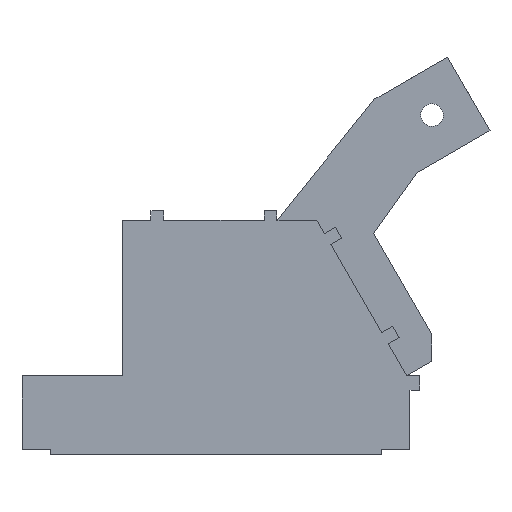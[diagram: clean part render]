
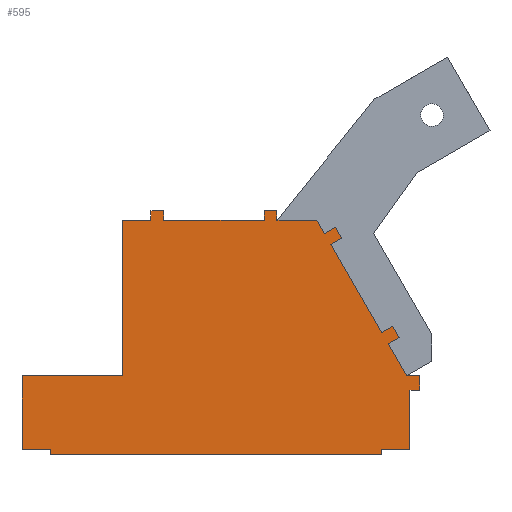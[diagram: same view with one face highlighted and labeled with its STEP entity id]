
A CAD part, left-side view. The second image highlights one B-rep face of the part: STEP entity #595.
In plain terms, the highlighted planar face has unit normal (-1, 0, 0).
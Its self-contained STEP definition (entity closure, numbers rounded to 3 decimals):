
#70=CARTESIAN_POINT('Vertex',(-1304.,1348.,-1200.)) ;
#75=CARTESIAN_POINT('Line Origine',(-1304.,1348.,-1190.)) ;
#79=CARTESIAN_POINT('Vertex',(-1304.,1348.,-1180.)) ;
#345=CARTESIAN_POINT('Line Origine',(-1304.,1398.,-1180.)) ;
#349=CARTESIAN_POINT('Vertex',(-1304.,1448.,-1180.)) ;
#364=CARTESIAN_POINT('Axis2P3D Location',(-1304.,0.,0.)) ;
#369=CARTESIAN_POINT('Line Origine',(-1304.,763.,-1200.)) ;
#373=CARTESIAN_POINT('Vertex',(-1304.,178.,-1200.)) ;
#376=CARTESIAN_POINT('Line Origine',(-1304.,178.,-1190.)) ;
#380=CARTESIAN_POINT('Vertex',(-1304.,178.,-1180.)) ;
#383=CARTESIAN_POINT('Line Origine',(-1304.,128.,-1180.)) ;
#387=CARTESIAN_POINT('Vertex',(-1304.,78.,-1180.)) ;
#390=CARTESIAN_POINT('Line Origine',(-1304.,78.,-1075.5)) ;
#394=CARTESIAN_POINT('Vertex',(-1304.,78.,-971.)) ;
#397=CARTESIAN_POINT('Line Origine',(-1304.,60.5,-971.)) ;
#401=CARTESIAN_POINT('Vertex',(-1304.,43.,-971.)) ;
#404=CARTESIAN_POINT('Line Origine',(-1304.,43.,-946.)) ;
#408=CARTESIAN_POINT('Vertex',(-1304.,43.,-921.)) ;
#411=CARTESIAN_POINT('Line Origine',(-1304.,66.245,-921.)) ;
#415=CARTESIAN_POINT('Vertex',(-1304.,89.489,-921.)) ;
#418=CARTESIAN_POINT('Line Origine',(-1304.,122.33,-864.117)) ;
#422=CARTESIAN_POINT('Vertex',(-1304.,155.172,-807.235)) ;
#425=CARTESIAN_POINT('Line Origine',(-1304.,135.686,-795.985)) ;
#429=CARTESIAN_POINT('Vertex',(-1304.,116.201,-784.735)) ;
#432=CARTESIAN_POINT('Line Origine',(-1304.,127.451,-765.249)) ;
#436=CARTESIAN_POINT('Vertex',(-1304.,138.701,-745.764)) ;
#439=CARTESIAN_POINT('Line Origine',(-1304.,158.186,-757.014)) ;
#443=CARTESIAN_POINT('Vertex',(-1304.,177.672,-768.264)) ;
#446=CARTESIAN_POINT('Line Origine',(-1304.,267.422,-612.812)) ;
#450=CARTESIAN_POINT('Vertex',(-1304.,357.172,-457.361)) ;
#453=CARTESIAN_POINT('Line Origine',(-1304.,337.686,-446.111)) ;
#457=CARTESIAN_POINT('Vertex',(-1304.,318.201,-434.861)) ;
#460=CARTESIAN_POINT('Line Origine',(-1304.,329.451,-415.375)) ;
#464=CARTESIAN_POINT('Vertex',(-1304.,340.701,-395.889)) ;
#467=CARTESIAN_POINT('Line Origine',(-1304.,360.186,-407.139)) ;
#471=CARTESIAN_POINT('Vertex',(-1304.,379.672,-418.389)) ;
#474=CARTESIAN_POINT('Line Origine',(-1304.,393.063,-395.195)) ;
#478=CARTESIAN_POINT('Vertex',(-1304.,406.455,-372.)) ;
#481=CARTESIAN_POINT('Line Origine',(-1304.,476.977,-372.)) ;
#485=CARTESIAN_POINT('Vertex',(-1304.,547.5,-372.)) ;
#488=CARTESIAN_POINT('Line Origine',(-1304.,547.5,-354.5)) ;
#492=CARTESIAN_POINT('Vertex',(-1304.,547.5,-337.)) ;
#495=CARTESIAN_POINT('Line Origine',(-1304.,570.,-337.)) ;
#499=CARTESIAN_POINT('Vertex',(-1304.,592.5,-337.)) ;
#502=CARTESIAN_POINT('Line Origine',(-1304.,592.5,-354.5)) ;
#506=CARTESIAN_POINT('Vertex',(-1304.,592.5,-372.)) ;
#509=CARTESIAN_POINT('Line Origine',(-1304.,770.,-372.)) ;
#513=CARTESIAN_POINT('Vertex',(-1304.,947.5,-372.)) ;
#516=CARTESIAN_POINT('Line Origine',(-1304.,947.5,-354.5)) ;
#520=CARTESIAN_POINT('Vertex',(-1304.,947.5,-337.)) ;
#523=CARTESIAN_POINT('Line Origine',(-1304.,970.,-337.)) ;
#527=CARTESIAN_POINT('Vertex',(-1304.,992.5,-337.)) ;
#530=CARTESIAN_POINT('Line Origine',(-1304.,992.5,-354.5)) ;
#534=CARTESIAN_POINT('Vertex',(-1304.,992.5,-372.)) ;
#537=CARTESIAN_POINT('Line Origine',(-1304.,1042.5,-372.)) ;
#541=CARTESIAN_POINT('Vertex',(-1304.,1092.5,-372.)) ;
#544=CARTESIAN_POINT('Line Origine',(-1304.,1092.5,-646.5)) ;
#548=CARTESIAN_POINT('Vertex',(-1304.,1092.5,-921.)) ;
#551=CARTESIAN_POINT('Line Origine',(-1304.,1270.25,-921.)) ;
#555=CARTESIAN_POINT('Vertex',(-1304.,1448.,-921.)) ;
#558=CARTESIAN_POINT('Line Origine',(-1304.,1448.,-1050.5)) ;
#76=DIRECTION('Vector Direction',(0.,0.,-1.)) ;
#346=DIRECTION('Vector Direction',(0.,1.,0.)) ;
#365=DIRECTION('Axis2P3D Direction',(1.,0.,0.)) ;
#366=DIRECTION('Axis2P3D XDirection',(0.,1.,0.)) ;
#370=DIRECTION('Vector Direction',(0.,-1.,0.)) ;
#377=DIRECTION('Vector Direction',(0.,0.,-1.)) ;
#384=DIRECTION('Vector Direction',(0.,1.,0.)) ;
#391=DIRECTION('Vector Direction',(0.,0.,-1.)) ;
#398=DIRECTION('Vector Direction',(0.,1.,0.)) ;
#405=DIRECTION('Vector Direction',(0.,0.,1.)) ;
#412=DIRECTION('Vector Direction',(0.,1.,0.)) ;
#419=DIRECTION('Vector Direction',(0.,0.5,0.866)) ;
#426=DIRECTION('Vector Direction',(0.,0.866,-0.5)) ;
#433=DIRECTION('Vector Direction',(0.,0.5,0.866)) ;
#440=DIRECTION('Vector Direction',(0.,-0.866,0.5)) ;
#447=DIRECTION('Vector Direction',(0.,0.5,0.866)) ;
#454=DIRECTION('Vector Direction',(0.,-0.866,0.5)) ;
#461=DIRECTION('Vector Direction',(0.,0.5,0.866)) ;
#468=DIRECTION('Vector Direction',(0.,0.866,-0.5)) ;
#475=DIRECTION('Vector Direction',(0.,0.5,0.866)) ;
#482=DIRECTION('Vector Direction',(0.,1.,0.)) ;
#489=DIRECTION('Vector Direction',(0.,0.,1.)) ;
#496=DIRECTION('Vector Direction',(0.,1.,0.)) ;
#503=DIRECTION('Vector Direction',(0.,0.,-1.)) ;
#510=DIRECTION('Vector Direction',(0.,1.,0.)) ;
#517=DIRECTION('Vector Direction',(0.,0.,1.)) ;
#524=DIRECTION('Vector Direction',(0.,1.,0.)) ;
#531=DIRECTION('Vector Direction',(0.,0.,-1.)) ;
#538=DIRECTION('Vector Direction',(0.,1.,0.)) ;
#545=DIRECTION('Vector Direction',(0.,0.,-1.)) ;
#552=DIRECTION('Vector Direction',(0.,1.,0.)) ;
#559=DIRECTION('Vector Direction',(0.,0.,-1.)) ;
#367=AXIS2_PLACEMENT_3D('Plane Axis2P3D',#364,#365,#366) ;
#564=ORIENTED_EDGE('',*,*,#375,.F.) ;
#565=ORIENTED_EDGE('',*,*,#382,.F.) ;
#566=ORIENTED_EDGE('',*,*,#389,.F.) ;
#567=ORIENTED_EDGE('',*,*,#396,.F.) ;
#568=ORIENTED_EDGE('',*,*,#403,.F.) ;
#569=ORIENTED_EDGE('',*,*,#410,.F.) ;
#570=ORIENTED_EDGE('',*,*,#417,.F.) ;
#571=ORIENTED_EDGE('',*,*,#424,.F.) ;
#572=ORIENTED_EDGE('',*,*,#431,.F.) ;
#573=ORIENTED_EDGE('',*,*,#438,.F.) ;
#574=ORIENTED_EDGE('',*,*,#445,.F.) ;
#575=ORIENTED_EDGE('',*,*,#452,.F.) ;
#576=ORIENTED_EDGE('',*,*,#459,.F.) ;
#577=ORIENTED_EDGE('',*,*,#466,.F.) ;
#578=ORIENTED_EDGE('',*,*,#473,.F.) ;
#579=ORIENTED_EDGE('',*,*,#480,.F.) ;
#580=ORIENTED_EDGE('',*,*,#487,.F.) ;
#581=ORIENTED_EDGE('',*,*,#494,.F.) ;
#582=ORIENTED_EDGE('',*,*,#501,.F.) ;
#583=ORIENTED_EDGE('',*,*,#508,.F.) ;
#584=ORIENTED_EDGE('',*,*,#515,.F.) ;
#585=ORIENTED_EDGE('',*,*,#522,.F.) ;
#586=ORIENTED_EDGE('',*,*,#529,.F.) ;
#587=ORIENTED_EDGE('',*,*,#536,.F.) ;
#588=ORIENTED_EDGE('',*,*,#543,.F.) ;
#589=ORIENTED_EDGE('',*,*,#550,.F.) ;
#590=ORIENTED_EDGE('',*,*,#557,.F.) ;
#591=ORIENTED_EDGE('',*,*,#562,.F.) ;
#592=ORIENTED_EDGE('',*,*,#351,.F.) ;
#593=ORIENTED_EDGE('',*,*,#81,.F.) ;
#77=VECTOR('Line Direction',#76,1.) ;
#347=VECTOR('Line Direction',#346,1.) ;
#371=VECTOR('Line Direction',#370,1.) ;
#378=VECTOR('Line Direction',#377,1.) ;
#385=VECTOR('Line Direction',#384,1.) ;
#392=VECTOR('Line Direction',#391,1.) ;
#399=VECTOR('Line Direction',#398,1.) ;
#406=VECTOR('Line Direction',#405,1.) ;
#413=VECTOR('Line Direction',#412,1.) ;
#420=VECTOR('Line Direction',#419,1.) ;
#427=VECTOR('Line Direction',#426,1.) ;
#434=VECTOR('Line Direction',#433,1.) ;
#441=VECTOR('Line Direction',#440,1.) ;
#448=VECTOR('Line Direction',#447,1.) ;
#455=VECTOR('Line Direction',#454,1.) ;
#462=VECTOR('Line Direction',#461,1.) ;
#469=VECTOR('Line Direction',#468,1.) ;
#476=VECTOR('Line Direction',#475,1.) ;
#483=VECTOR('Line Direction',#482,1.) ;
#490=VECTOR('Line Direction',#489,1.) ;
#497=VECTOR('Line Direction',#496,1.) ;
#504=VECTOR('Line Direction',#503,1.) ;
#511=VECTOR('Line Direction',#510,1.) ;
#518=VECTOR('Line Direction',#517,1.) ;
#525=VECTOR('Line Direction',#524,1.) ;
#532=VECTOR('Line Direction',#531,1.) ;
#539=VECTOR('Line Direction',#538,1.) ;
#546=VECTOR('Line Direction',#545,1.) ;
#553=VECTOR('Line Direction',#552,1.) ;
#560=VECTOR('Line Direction',#559,1.) ;
#595=ADVANCED_FACE('',(#594),#368,.F.) ;
#81=EDGE_CURVE('',#71,#80,#78,.F.) ;
#351=EDGE_CURVE('',#80,#350,#348,.T.) ;
#375=EDGE_CURVE('',#374,#71,#372,.F.) ;
#382=EDGE_CURVE('',#381,#374,#379,.T.) ;
#389=EDGE_CURVE('',#388,#381,#386,.T.) ;
#396=EDGE_CURVE('',#395,#388,#393,.T.) ;
#403=EDGE_CURVE('',#402,#395,#400,.T.) ;
#410=EDGE_CURVE('',#409,#402,#407,.F.) ;
#417=EDGE_CURVE('',#416,#409,#414,.F.) ;
#424=EDGE_CURVE('',#423,#416,#421,.F.) ;
#431=EDGE_CURVE('',#430,#423,#428,.T.) ;
#438=EDGE_CURVE('',#437,#430,#435,.F.) ;
#445=EDGE_CURVE('',#444,#437,#442,.T.) ;
#452=EDGE_CURVE('',#451,#444,#449,.F.) ;
#459=EDGE_CURVE('',#458,#451,#456,.F.) ;
#466=EDGE_CURVE('',#465,#458,#463,.F.) ;
#473=EDGE_CURVE('',#472,#465,#470,.F.) ;
#480=EDGE_CURVE('',#479,#472,#477,.F.) ;
#487=EDGE_CURVE('',#486,#479,#484,.F.) ;
#494=EDGE_CURVE('',#493,#486,#491,.F.) ;
#501=EDGE_CURVE('',#500,#493,#498,.F.) ;
#508=EDGE_CURVE('',#507,#500,#505,.F.) ;
#515=EDGE_CURVE('',#514,#507,#512,.F.) ;
#522=EDGE_CURVE('',#521,#514,#519,.F.) ;
#529=EDGE_CURVE('',#528,#521,#526,.F.) ;
#536=EDGE_CURVE('',#535,#528,#533,.F.) ;
#543=EDGE_CURVE('',#542,#535,#540,.F.) ;
#550=EDGE_CURVE('',#549,#542,#547,.F.) ;
#557=EDGE_CURVE('',#556,#549,#554,.F.) ;
#562=EDGE_CURVE('',#350,#556,#561,.F.) ;
#563=EDGE_LOOP('',(#564,#565,#566,#567,#568,#569,#570,#571,#572,#573,#574,#575,#576,#577,#578,#579,#580,#581,#582,#583,#584,#585,#586,#587,#588,#589,#590,#591,#592,#593)) ;
#594=FACE_OUTER_BOUND('',#563,.T.) ;
#78=LINE('Line',#75,#77) ;
#348=LINE('Line',#345,#347) ;
#372=LINE('Line',#369,#371) ;
#379=LINE('Line',#376,#378) ;
#386=LINE('Line',#383,#385) ;
#393=LINE('Line',#390,#392) ;
#400=LINE('Line',#397,#399) ;
#407=LINE('Line',#404,#406) ;
#414=LINE('Line',#411,#413) ;
#421=LINE('Line',#418,#420) ;
#428=LINE('Line',#425,#427) ;
#435=LINE('Line',#432,#434) ;
#442=LINE('Line',#439,#441) ;
#449=LINE('Line',#446,#448) ;
#456=LINE('Line',#453,#455) ;
#463=LINE('Line',#460,#462) ;
#470=LINE('Line',#467,#469) ;
#477=LINE('Line',#474,#476) ;
#484=LINE('Line',#481,#483) ;
#491=LINE('Line',#488,#490) ;
#498=LINE('Line',#495,#497) ;
#505=LINE('Line',#502,#504) ;
#512=LINE('Line',#509,#511) ;
#519=LINE('Line',#516,#518) ;
#526=LINE('Line',#523,#525) ;
#533=LINE('Line',#530,#532) ;
#540=LINE('Line',#537,#539) ;
#547=LINE('Line',#544,#546) ;
#554=LINE('Line',#551,#553) ;
#561=LINE('Line',#558,#560) ;
#368=PLANE('Plane',#367) ;
#71=VERTEX_POINT('',#70) ;
#80=VERTEX_POINT('',#79) ;
#350=VERTEX_POINT('',#349) ;
#374=VERTEX_POINT('',#373) ;
#381=VERTEX_POINT('',#380) ;
#388=VERTEX_POINT('',#387) ;
#395=VERTEX_POINT('',#394) ;
#402=VERTEX_POINT('',#401) ;
#409=VERTEX_POINT('',#408) ;
#416=VERTEX_POINT('',#415) ;
#423=VERTEX_POINT('',#422) ;
#430=VERTEX_POINT('',#429) ;
#437=VERTEX_POINT('',#436) ;
#444=VERTEX_POINT('',#443) ;
#451=VERTEX_POINT('',#450) ;
#458=VERTEX_POINT('',#457) ;
#465=VERTEX_POINT('',#464) ;
#472=VERTEX_POINT('',#471) ;
#479=VERTEX_POINT('',#478) ;
#486=VERTEX_POINT('',#485) ;
#493=VERTEX_POINT('',#492) ;
#500=VERTEX_POINT('',#499) ;
#507=VERTEX_POINT('',#506) ;
#514=VERTEX_POINT('',#513) ;
#521=VERTEX_POINT('',#520) ;
#528=VERTEX_POINT('',#527) ;
#535=VERTEX_POINT('',#534) ;
#542=VERTEX_POINT('',#541) ;
#549=VERTEX_POINT('',#548) ;
#556=VERTEX_POINT('',#555) ;
